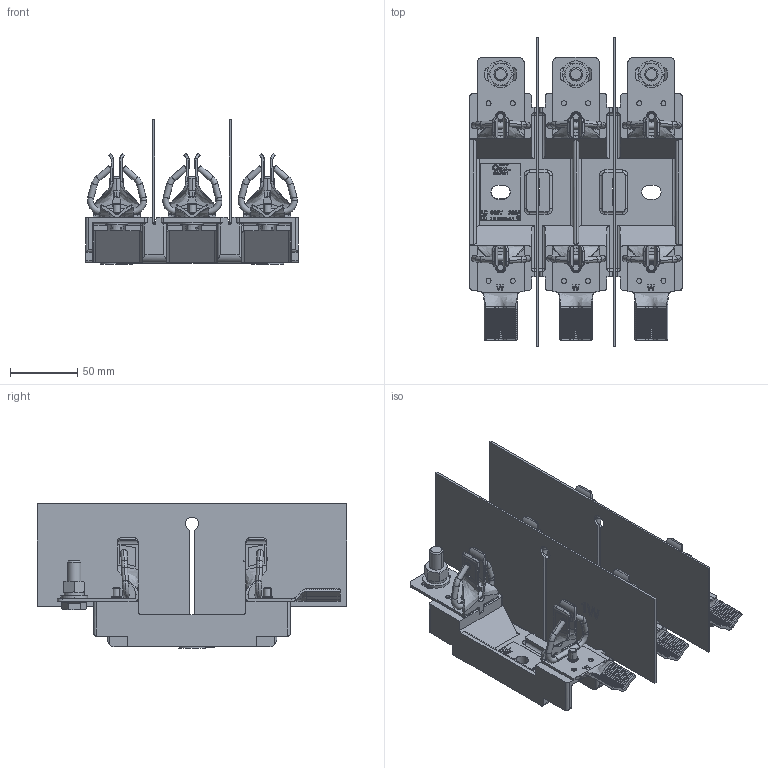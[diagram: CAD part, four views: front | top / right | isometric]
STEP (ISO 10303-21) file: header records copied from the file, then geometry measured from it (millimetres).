
FILE_DESCRIPTION (( 'STEP AP214' ), '1' );
FILE_NAME ('pojistkovy_spodek_880028_-_0.STEP', '2022-03-30T08:54:54', ( '' ), ( '' ), 'SwSTEP 2.0', 'SolidWorks 2015', '' );
FILE_SCHEMA (( 'AUTOMOTIVE_DESIGN' ));
Length unit declared in the file: millimetre
Products named in the file (13): Sroub_ISO_4017_M10x30_NA009944_-_0; 476007_Y00; Podlozka_CSN_021702_6_4_3112102021_-_0; pojistkovy_spodek_880028_-_0; 561129_Z00-s; Sroub_ISO_1207_M6x16_3092310407_-_0; zakladna_523135_-_0_Z00; Matice_ISO4032_M10_3111200060_-_0; kontakt_561144_-_0_Z00-s; Podlozka_CSN_021702_10_5_3112102025_-_0; potisk_984096_-_0_Z00; Podlozka_CSN_021740_10_3112140112_-_0; vlozka_530976_c_0_Z01
Assembly tree (40 placements, depth 2):
  pojistkovy_spodek_880028_-_0
    zakladna_523135_-_0_Z00
    Podlozka_CSN_021702_6_4_3112102021_-_0  x6
    Sroub_ISO_1207_M6x16_3092310407_-_0  x6
    476007_Y00  x6
    potisk_984096_-_0_Z00
    Sroub_ISO_4017_M10x30_NA009944_-_0  x3
    Podlozka_CSN_021702_10_5_3112102025_-_0  x3
    Podlozka_CSN_021740_10_3112140112_-_0  x3
    Matice_ISO4032_M10_3111200060_-_0  x3
    kontakt_561144_-_0_Z00-s  x3
    vlozka_530976_c_0_Z01  x2
    561129_Z00-s  x3
Bounding box: 158 x 230 x 107.5 mm (x, y, z)
Volume: 323190.3 mm3; surface area: 246177.5 mm2
Topology: 46 solids, 46 shells, 3856 faces, 9331 edges, 5743 vertices
Faces by surface type: plane 1875, cylinder 930, cone 465, bspline 418, torus 136, sphere 32
Entity records: 86504 total; most frequent: CARTESIAN_POINT 32817, ORIENTED_EDGE 10406, DIRECTION 8794, EDGE_CURVE 5203, VERTEX_POINT 3291, VECTOR 3212, LINE 3212, AXIS2_PLACEMENT_3D 2791
